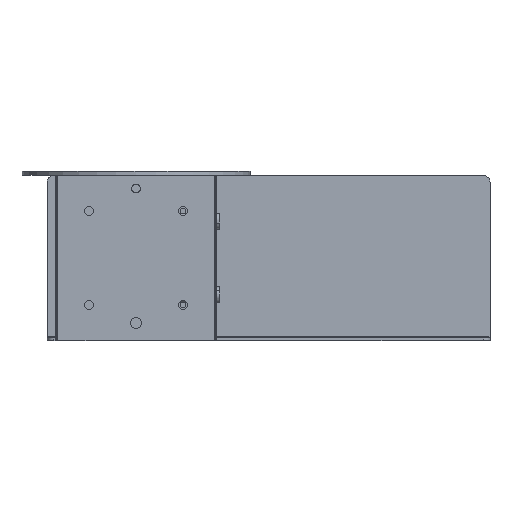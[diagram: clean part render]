
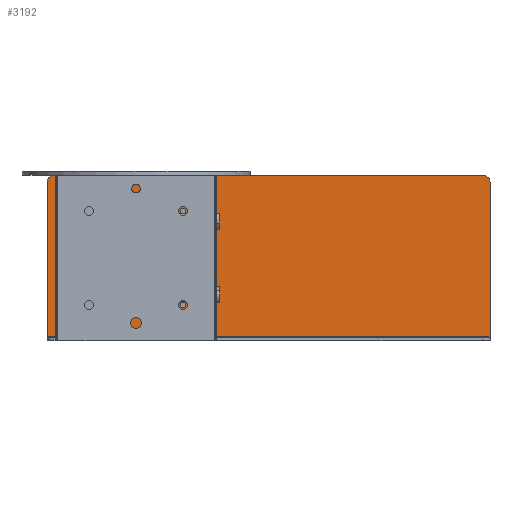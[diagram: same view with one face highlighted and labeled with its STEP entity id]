
A CAD part, front view. The second image highlights one B-rep face of the part: STEP entity #3192.
In plain terms, the highlighted planar face has unit normal (0, -1, 0).
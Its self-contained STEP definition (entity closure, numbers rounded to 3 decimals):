
#163=DIRECTION('',(-1.,0.,0.));
#164=VECTOR('',#163,320.);
#165=CARTESIAN_POINT('',(160.,-2.,-60.));
#166=LINE('',#165,#164);
#167=CARTESIAN_POINT('',(-160.,-2.,-55.));
#168=DIRECTION('',(0.,1.,0.));
#169=DIRECTION('',(0.,0.,-1.));
#170=AXIS2_PLACEMENT_3D('',#167,#168,#169);
#172=DIRECTION('',(0.,0.,1.));
#173=VECTOR('',#172,115.);
#174=CARTESIAN_POINT('',(-165.,-2.,-55.));
#175=LINE('',#174,#173);
#176=DIRECTION('',(0.,0.,-1.));
#177=VECTOR('',#176,115.);
#178=CARTESIAN_POINT('',(165.,-2.,60.));
#179=LINE('',#178,#177);
#180=CARTESIAN_POINT('',(160.,-2.,-55.));
#181=DIRECTION('',(0.,1.,0.));
#182=DIRECTION('',(1.,0.,0.));
#183=AXIS2_PLACEMENT_3D('',#180,#181,#182);
#185=CARTESIAN_POINT('',(63.75,-2.,36.5));
#186=DIRECTION('',(0.,-1.,0.));
#187=DIRECTION('',(0.,0.,1.));
#188=AXIS2_PLACEMENT_3D('',#185,#186,#187);
#190=CARTESIAN_POINT('',(63.75,-2.,36.5));
#191=DIRECTION('',(0.,-1.,0.));
#192=DIRECTION('',(0.,0.,-1.));
#193=AXIS2_PLACEMENT_3D('',#190,#191,#192);
#195=CARTESIAN_POINT('',(141.75,-2.,-33.5));
#196=DIRECTION('',(0.,-1.,0.));
#197=DIRECTION('',(0.,0.,1.));
#198=AXIS2_PLACEMENT_3D('',#195,#196,#197);
#200=CARTESIAN_POINT('',(141.75,-2.,-33.5));
#201=DIRECTION('',(0.,-1.,0.));
#202=DIRECTION('',(0.,0.,-1.));
#203=AXIS2_PLACEMENT_3D('',#200,#201,#202);
#205=CARTESIAN_POINT('',(98.8,-2.,0.));
#206=DIRECTION('',(0.,-1.,0.));
#207=DIRECTION('',(0.,0.,-1.));
#208=AXIS2_PLACEMENT_3D('',#205,#206,#207);
#210=CARTESIAN_POINT('',(98.8,-2.,0.));
#211=DIRECTION('',(0.,-1.,0.));
#212=DIRECTION('',(0.,0.,1.));
#213=AXIS2_PLACEMENT_3D('',#210,#211,#212);
#215=CARTESIAN_POINT('',(141.75,-2.,36.5));
#216=DIRECTION('',(0.,-1.,0.));
#217=DIRECTION('',(0.,0.,1.));
#218=AXIS2_PLACEMENT_3D('',#215,#216,#217);
#220=CARTESIAN_POINT('',(141.75,-2.,36.5));
#221=DIRECTION('',(0.,-1.,0.));
#222=DIRECTION('',(0.,0.,-1.));
#223=AXIS2_PLACEMENT_3D('',#220,#221,#222);
#225=CARTESIAN_POINT('',(63.75,-2.,-33.5));
#226=DIRECTION('',(0.,-1.,0.));
#227=DIRECTION('',(0.,0.,1.));
#228=AXIS2_PLACEMENT_3D('',#225,#226,#227);
#230=CARTESIAN_POINT('',(63.75,-2.,-33.5));
#231=DIRECTION('',(0.,-1.,0.));
#232=DIRECTION('',(0.,0.,-1.));
#233=AXIS2_PLACEMENT_3D('',#230,#231,#232);
#2105=DIRECTION('',(-1.,0.,0.));
#2106=VECTOR('',#2105,330.);
#2107=CARTESIAN_POINT('',(165.,-2.,60.));
#2108=LINE('',#2107,#2106);
#2445=CARTESIAN_POINT('',(141.75,-2.,38.5));
#2447=VERTEX_POINT('',#2445);
#2462=CARTESIAN_POINT('',(98.8,-2.,-5.05));
#2464=VERTEX_POINT('',#2462);
#2526=CARTESIAN_POINT('',(160.,-2.,-60.));
#2528=VERTEX_POINT('',#2526);
#2549=CARTESIAN_POINT('',(-160.,-2.,-60.));
#2550=CARTESIAN_POINT('',(-165.,-2.,-55.));
#2551=VERTEX_POINT('',#2549);
#2552=VERTEX_POINT('',#2550);
#2673=CARTESIAN_POINT('',(141.75,-2.,-35.5));
#2674=CARTESIAN_POINT('',(141.75,-2.,-31.5));
#2675=VERTEX_POINT('',#2673);
#2676=VERTEX_POINT('',#2674);
#2696=CARTESIAN_POINT('',(-165.,-2.,60.));
#2698=VERTEX_POINT('',#2696);
#2915=CARTESIAN_POINT('',(98.8,-2.,5.05));
#2916=VERTEX_POINT('',#2915);
#2947=CARTESIAN_POINT('',(63.75,-2.,38.5));
#2948=CARTESIAN_POINT('',(63.75,-2.,34.5));
#2949=VERTEX_POINT('',#2947);
#2950=VERTEX_POINT('',#2948);
#2951=CARTESIAN_POINT('',(165.,-2.,60.));
#2952=VERTEX_POINT('',#2951);
#2957=CARTESIAN_POINT('',(141.75,-2.,34.5));
#2958=VERTEX_POINT('',#2957);
#2961=CARTESIAN_POINT('',(63.75,-2.,-31.5));
#2962=CARTESIAN_POINT('',(63.75,-2.,-35.5));
#2963=VERTEX_POINT('',#2961);
#2964=VERTEX_POINT('',#2962);
#3087=CARTESIAN_POINT('',(165.,-2.,-55.));
#3088=VERTEX_POINT('',#3087);
#3145=CARTESIAN_POINT('',(0.,-2.,0.));
#3146=DIRECTION('',(0.,-1.,0.));
#3147=DIRECTION('',(0.,0.,-1.));
#3148=AXIS2_PLACEMENT_3D('',#3145,#3146,#3147);
#3149=PLANE('',#3148);
#3151=ORIENTED_EDGE('',*,*,#3150,.T.);
#3153=ORIENTED_EDGE('',*,*,#3152,.T.);
#3155=ORIENTED_EDGE('',*,*,#3154,.T.);
#3157=ORIENTED_EDGE('',*,*,#3156,.F.);
#3159=ORIENTED_EDGE('',*,*,#3158,.T.);
#3161=ORIENTED_EDGE('',*,*,#3160,.T.);
#3162=EDGE_LOOP('',(#3151,#3153,#3155,#3157,#3159,#3161));
#3163=FACE_OUTER_BOUND('',#3162,.F.);
#3165=ORIENTED_EDGE('',*,*,#3164,.T.);
#3167=ORIENTED_EDGE('',*,*,#3166,.T.);
#3168=EDGE_LOOP('',(#3165,#3167));
#3169=FACE_BOUND('',#3168,.F.);
#3170=ORIENTED_EDGE('',*,*,#3127,.T.);
#3171=ORIENTED_EDGE('',*,*,#3139,.T.);
#3172=EDGE_LOOP('',(#3170,#3171));
#3173=FACE_BOUND('',#3172,.F.);
#3175=ORIENTED_EDGE('',*,*,#3174,.T.);
#3177=ORIENTED_EDGE('',*,*,#3176,.T.);
#3178=EDGE_LOOP('',(#3175,#3177));
#3179=FACE_BOUND('',#3178,.F.);
#3181=ORIENTED_EDGE('',*,*,#3180,.T.);
#3183=ORIENTED_EDGE('',*,*,#3182,.T.);
#3184=EDGE_LOOP('',(#3181,#3183));
#3185=FACE_BOUND('',#3184,.F.);
#3187=ORIENTED_EDGE('',*,*,#3186,.T.);
#3189=ORIENTED_EDGE('',*,*,#3188,.T.);
#3190=EDGE_LOOP('',(#3187,#3189));
#3191=FACE_BOUND('',#3190,.F.);
#3192=ADVANCED_FACE('',(#3163,#3169,#3173,#3179,#3185,#3191),#3149,.T.);
#171=CIRCLE('',#170,5.);
#184=CIRCLE('',#183,5.);
#189=CIRCLE('',#188,2.);
#194=CIRCLE('',#193,2.);
#199=CIRCLE('',#198,2.);
#204=CIRCLE('',#203,2.);
#209=CIRCLE('',#208,5.05);
#214=CIRCLE('',#213,5.05);
#219=CIRCLE('',#218,2.);
#224=CIRCLE('',#223,2.);
#229=CIRCLE('',#228,2.);
#234=CIRCLE('',#233,2.);
#3127=EDGE_CURVE('',#2676,#2675,#199,.T.);
#3139=EDGE_CURVE('',#2675,#2676,#204,.T.);
#3150=EDGE_CURVE('',#2528,#2551,#166,.T.);
#3152=EDGE_CURVE('',#2551,#2552,#171,.T.);
#3154=EDGE_CURVE('',#2552,#2698,#175,.T.);
#3156=EDGE_CURVE('',#2952,#2698,#2108,.T.);
#3158=EDGE_CURVE('',#2952,#3088,#179,.T.);
#3160=EDGE_CURVE('',#3088,#2528,#184,.T.);
#3164=EDGE_CURVE('',#2949,#2950,#189,.T.);
#3166=EDGE_CURVE('',#2950,#2949,#194,.T.);
#3174=EDGE_CURVE('',#2464,#2916,#209,.T.);
#3176=EDGE_CURVE('',#2916,#2464,#214,.T.);
#3180=EDGE_CURVE('',#2447,#2958,#219,.T.);
#3182=EDGE_CURVE('',#2958,#2447,#224,.T.);
#3186=EDGE_CURVE('',#2963,#2964,#229,.T.);
#3188=EDGE_CURVE('',#2964,#2963,#234,.T.);
